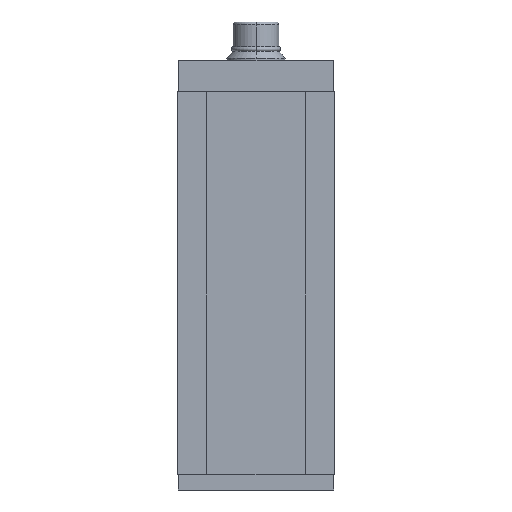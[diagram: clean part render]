
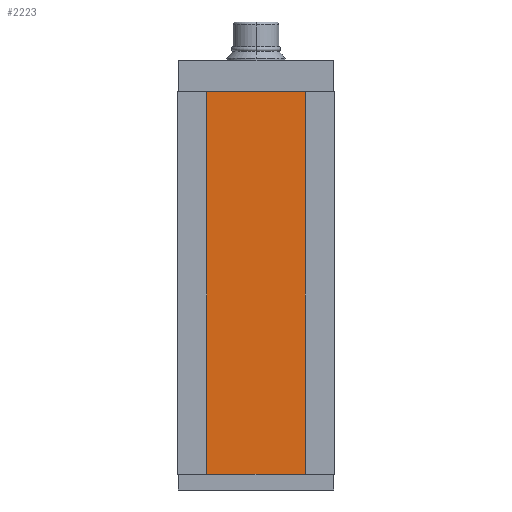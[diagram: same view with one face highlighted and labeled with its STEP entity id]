
A CAD part, front view. The second image highlights one B-rep face of the part: STEP entity #2223.
In plain terms, the highlighted planar face has unit normal (0, -1, 0).
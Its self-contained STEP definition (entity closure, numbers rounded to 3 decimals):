
#447 = VERTEX_POINT ( 'NONE', #3309 ) ;
#461 = CARTESIAN_POINT ( 'NONE',  ( -26.155, 0., 97.5 ) ) ;
#529 = LINE ( 'NONE', #530, #531 ) ;
#530 = CARTESIAN_POINT ( 'NONE',  ( -26.155, 0., 97.5 ) ) ;
#531 = VECTOR ( 'NONE', #532, 1000. ) ;
#532 = DIRECTION ( 'NONE',  ( 0., 0., -1. ) ) ;
#714 = LINE ( 'NONE', #715, #716 ) ;
#715 = CARTESIAN_POINT ( 'NONE',  ( 26.155, 0., 97.5 ) ) ;
#716 = VECTOR ( 'NONE', #719, 1000. ) ;
#719 = DIRECTION ( 'NONE',  ( 0., 0., -1. ) ) ;
#901 = CARTESIAN_POINT ( 'NONE',  ( -26.155, 0., -97.5 ) ) ;
#1074 = CARTESIAN_POINT ( 'NONE',  ( 26.155, 0., 97.5 ) ) ;
#1952 = EDGE_LOOP ( 'NONE', ( #2470, #2782, #2228, #2913 ) ) ;
#1984 = VERTEX_POINT ( 'NONE', #461 ) ;
#2001 = EDGE_CURVE ( 'NONE', #1984, #2081, #529, .T. ) ;
#2041 = EDGE_CURVE ( 'NONE', #2131, #447, #714, .T. ) ;
#2081 = VERTEX_POINT ( 'NONE', #901 ) ;
#2131 = VERTEX_POINT ( 'NONE', #1074 ) ;
#2223 = ADVANCED_FACE ( 'NONE', ( #4231 ), #4232, .F. ) ;
#2228 = ORIENTED_EDGE ( 'NONE', *, *, #2340, .F. ) ;
#2340 = EDGE_CURVE ( 'NONE', #1984, #2131, #5209, .T. ) ;
#2470 = ORIENTED_EDGE ( 'NONE', *, *, #2759, .T. ) ;
#2759 = EDGE_CURVE ( 'NONE', #2081, #447, #4752, .T. ) ;
#2782 = ORIENTED_EDGE ( 'NONE', *, *, #2041, .F. ) ;
#2913 = ORIENTED_EDGE ( 'NONE', *, *, #2001, .T. ) ;
#3309 = CARTESIAN_POINT ( 'NONE',  ( 26.155, 0., -97.5 ) ) ;
#4231 = FACE_OUTER_BOUND ( 'NONE', #1952, .T. ) ;
#4232 = PLANE ( 'NONE',  #4234 ) ;
#4234 = AXIS2_PLACEMENT_3D ( 'NONE', #4235, #4236, #4237 ) ;
#4235 = CARTESIAN_POINT ( 'NONE',  ( -26.155, 0., 97.5 ) ) ;
#4236 = DIRECTION ( 'NONE',  ( 0., 1., 0. ) ) ;
#4237 = DIRECTION ( 'NONE',  ( 0., 0., 1. ) ) ;
#4752 = LINE ( 'NONE', #4758, #4759 ) ;
#4758 = CARTESIAN_POINT ( 'NONE',  ( -26.155, 0., -97.5 ) ) ;
#4759 = VECTOR ( 'NONE', #4760, 1000. ) ;
#4760 = DIRECTION ( 'NONE',  ( 1., 0., 0. ) ) ;
#5209 = LINE ( 'NONE', #5210, #5211 ) ;
#5210 = CARTESIAN_POINT ( 'NONE',  ( -26.155, 0., 97.5 ) ) ;
#5211 = VECTOR ( 'NONE', #5212, 1000. ) ;
#5212 = DIRECTION ( 'NONE',  ( 1., 0., 0. ) ) ;
